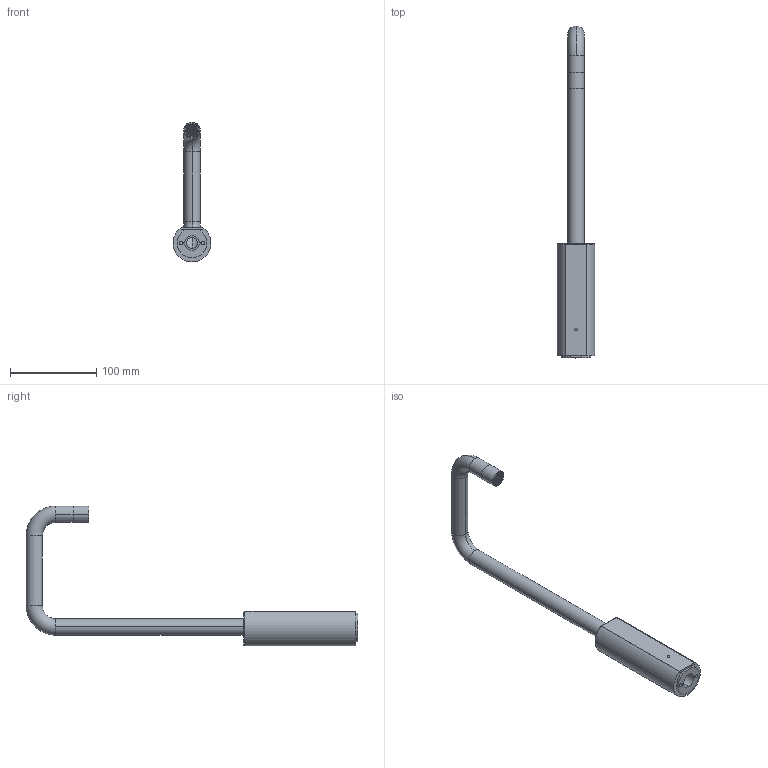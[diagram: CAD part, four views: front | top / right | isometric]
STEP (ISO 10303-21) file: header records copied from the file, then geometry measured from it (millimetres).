
FILE_DESCRIPTION (( 'STEP AP203' ), '1' );
FILE_NAME ('T1_1.STEP', '2022-03-29T14:19:18', ( '' ), ( '' ), 'SwSTEP 2.0', 'SolidWorks 2021', '' );
FILE_SCHEMA (( 'CONFIG_CONTROL_DESIGN' ));
Length unit declared in the file: millimetre
Products named in the file (1): T1_1
Bounding box: 43.95 x 385.52 x 162.47 mm (x, y, z)
Surface area: 56020.7 mm2 (no closed solid volume)
Topology: 0 solids, 94 shells, 186 faces, 895 edges, 801 vertices
Faces by surface type: plane 110, cylinder 66, torus 6, cone 2, bspline 2
Entity records: 9648 total; most frequent: CARTESIAN_POINT 3143, DIRECTION 1189, ORIENTED_EDGE 1033, EDGE_CURVE 895, VERTEX_POINT 801, LINE 607, VECTOR 607, AXIS2_PLACEMENT_3D 291
